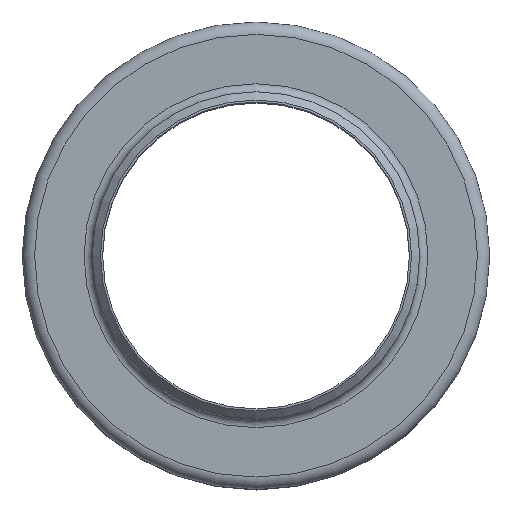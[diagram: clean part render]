
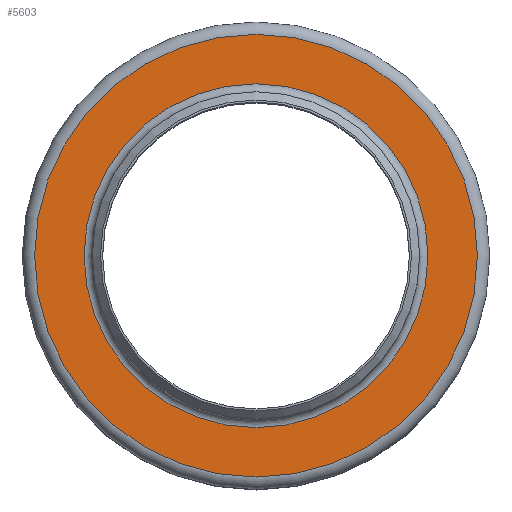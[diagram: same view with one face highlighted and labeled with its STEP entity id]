
A CAD part, top view. The second image highlights one B-rep face of the part: STEP entity #5603.
In plain terms, the highlighted planar face has unit normal (0, 0, 1).
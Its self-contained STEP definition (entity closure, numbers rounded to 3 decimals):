
#195=FACE_BOUND('',#1015,.T.);
#329=PLANE('',#6028);
#675=FACE_OUTER_BOUND('',#1014,.T.);
#1014=EDGE_LOOP('',(#4683));
#1015=EDGE_LOOP('',(#4684));
#1870=CIRCLE('',#6023,83.5);
#1874=CIRCLE('',#6029,107.5);
#2598=VERTEX_POINT('',#12591);
#2601=VERTEX_POINT('',#12602);
#3310=EDGE_CURVE('',#2598,#2598,#1870,.T.);
#3315=EDGE_CURVE('',#2601,#2601,#1874,.T.);
#4683=ORIENTED_EDGE('',*,*,#3315,.F.);
#4684=ORIENTED_EDGE('',*,*,#3310,.F.);
#5603=ADVANCED_FACE('',(#675,#195),#329,.F.);
#6023=AXIS2_PLACEMENT_3D('',#12593,#7183,#7184);
#6028=AXIS2_PLACEMENT_3D('',#12601,#7194,#7195);
#6029=AXIS2_PLACEMENT_3D('',#12603,#7196,#7197);
#7183=DIRECTION('center_axis',(0.,0.,1.));
#7184=DIRECTION('ref_axis',(0.,-1.,0.));
#7194=DIRECTION('center_axis',(0.,0.,-1.));
#7195=DIRECTION('ref_axis',(-1.,0.,0.));
#7196=DIRECTION('center_axis',(0.,0.,-1.));
#7197=DIRECTION('ref_axis',(1.,0.,0.));
#12591=CARTESIAN_POINT('',(83.5,0.,83.));
#12593=CARTESIAN_POINT('Origin',(0.,0.,83.));
#12601=CARTESIAN_POINT('Origin',(0.,79.5,83.));
#12602=CARTESIAN_POINT('',(107.5,0.,83.));
#12603=CARTESIAN_POINT('Origin',(0.,0.,83.));
